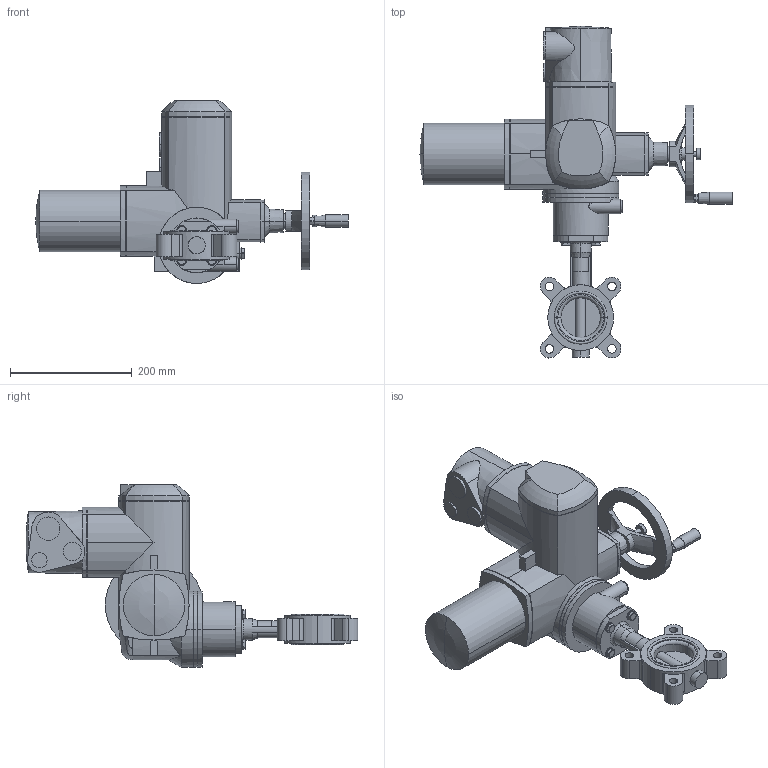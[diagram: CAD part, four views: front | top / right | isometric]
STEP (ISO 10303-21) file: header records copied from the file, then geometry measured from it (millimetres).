
FILE_DESCRIPTION (( 'STEP AP214' ), '1' );
FILE_NAME ('67546.step', '2020-10-23T13:46:27', ( '' ), ( '' ), 'SwSTEP 2.0', 'SolidWorks 2019', '' );
FILE_SCHEMA (( 'AUTOMOTIVE_DESIGN' ));
Length unit declared in the file: millimetre
Products named in the file (7): Gewindestift mit Kegelkuppe und In-6kt DIN 913 A4_Gewindestift mit In-6kt M5x10; 6kt-Schr DIN 933_M8x25; TL20-0065_M01; SQ(R) 05.2_SQ 05.2 Drehstrommotor; 67546; U-Scheibe DIN 125 A_M8; 54377_SQ05.2 F05_F07-VK11
Assembly tree (12 placements, depth 2):
  67546
    TL20-0065_M01
    U-Scheibe DIN 125 A_M8  x4
    6kt-Schr DIN 933_M8x25  x4
    SQ(R) 05.2_SQ 05.2 Drehstrommotor
    54377_SQ05.2 F05_F07-VK11
    Gewindestift mit Kegelkuppe und In-6kt DIN 913 A4_Gewindestift mit In-6kt M5x10
Bounding box: 512.7 x 544.74 x 300.3 mm (x, y, z)
Volume: 8453371.7 mm3; surface area: 470920.7 mm2
Topology: 12 solids, 12 shells, 702 faces, 1746 edges, 1105 vertices
Faces by surface type: plane 349, cylinder 219, cone 109, bspline 11, torus 10, sphere 4
Entity records: 26438 total; most frequent: CARTESIAN_POINT 7482, DIRECTION 3135, ORIENTED_EDGE 3070, EDGE_CURVE 1535, AXIS2_PLACEMENT_3D 1163, VERTEX_POINT 983, LINE 809, VECTOR 809
